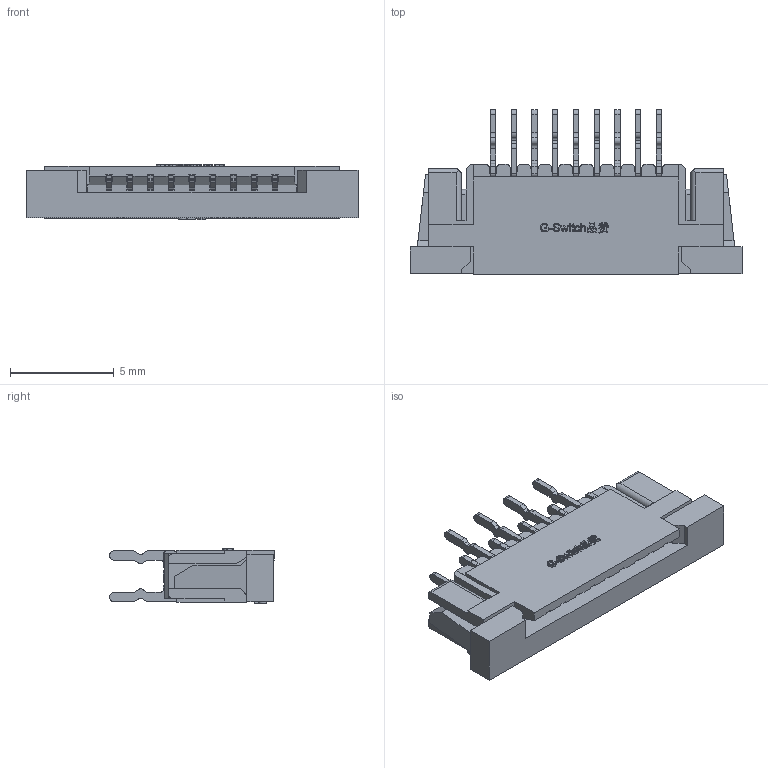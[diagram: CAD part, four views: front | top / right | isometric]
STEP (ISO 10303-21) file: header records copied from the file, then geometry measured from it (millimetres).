
FILE_DESCRIPTION (( 'STEP AP203' ), '1' );
FILE_NAME ('GT-F1014DV53-09SBT01.STEP', '2024-01-15T02:11:45', ( 'Microsoft' ), ( 'Microsoft' ), 'SwSTEP 2.0', 'SolidWorks 2023', '' );
FILE_SCHEMA (( 'CONFIG_CONTROL_DESIGN' ));
Length unit declared in the file: millimetre
Products named in the file (1): GT-F1014DV53-09SBT01
Bounding box: 16 x 7.95 x 2.68 mm (x, y, z)
Volume: 159.1 mm3; surface area: 709.4 mm2
Topology: 11 solids, 11 shells, 1254 faces, 3630 edges, 2407 vertices
Faces by surface type: plane 812, cylinder 363, bspline 79
Entity records: 45090 total; most frequent: CARTESIAN_POINT 11816, ORIENTED_EDGE 7260, DIRECTION 6521, EDGE_CURVE 3630, VECTOR 2737, LINE 2737, VERTEX_POINT 2407, AXIS2_PLACEMENT_3D 1892
